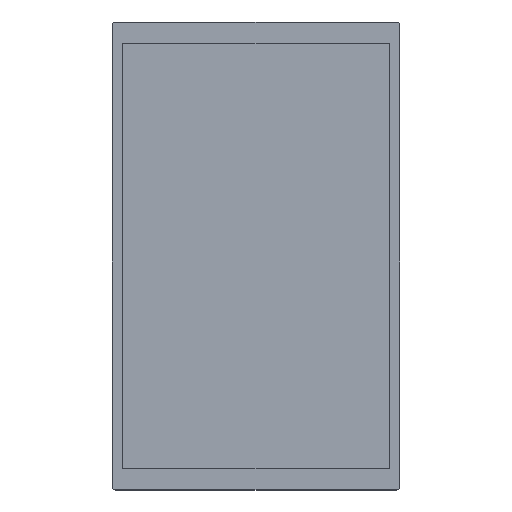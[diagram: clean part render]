
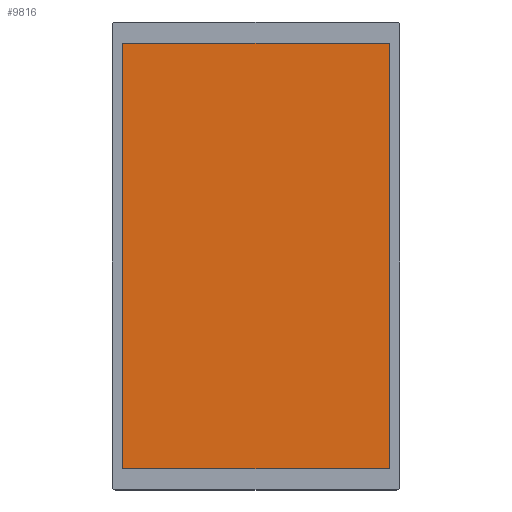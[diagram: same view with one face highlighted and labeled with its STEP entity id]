
A CAD part, top view. The second image highlights one B-rep face of the part: STEP entity #9816.
In plain terms, the highlighted planar face has unit normal (0, 0, 1).
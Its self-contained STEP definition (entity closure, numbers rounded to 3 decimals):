
#8148=DIRECTION('',(1.,0.,0.));
#8149=VECTOR('',#8148,135.96);
#8150=CARTESIAN_POINT('',(-67.98,108.59,4.75));
#8151=LINE('',#8150,#8149);
#8162=DIRECTION('',(0.,-1.,0.));
#8163=VECTOR('',#8162,217.18);
#8164=CARTESIAN_POINT('',(67.98,108.59,4.75));
#8165=LINE('',#8164,#8163);
#8176=DIRECTION('',(-1.,0.,0.));
#8177=VECTOR('',#8176,135.96);
#8178=CARTESIAN_POINT('',(67.98,-108.59,4.75));
#8179=LINE('',#8178,#8177);
#8190=DIRECTION('',(0.,1.,0.));
#8191=VECTOR('',#8190,217.18);
#8192=CARTESIAN_POINT('',(-67.98,-108.59,4.75));
#8193=LINE('',#8192,#8191);
#8393=CARTESIAN_POINT('',(-67.98,108.59,4.75));
#8394=CARTESIAN_POINT('',(67.98,108.59,4.75));
#8395=VERTEX_POINT('',#8393);
#8396=VERTEX_POINT('',#8394);
#8397=CARTESIAN_POINT('',(67.98,-108.59,4.75));
#8398=VERTEX_POINT('',#8397);
#8399=CARTESIAN_POINT('',(-67.98,-108.59,4.75));
#8400=VERTEX_POINT('',#8399);
#9802=CARTESIAN_POINT('',(0.,0.,4.75));
#9803=DIRECTION('',(0.,0.,-1.));
#9804=DIRECTION('',(-1.,0.,0.));
#9805=AXIS2_PLACEMENT_3D('',#9802,#9803,#9804);
#9806=PLANE('',#9805);
#9807=ORIENTED_EDGE('',*,*,#9792,.T.);
#9809=ORIENTED_EDGE('',*,*,#9808,.T.);
#9811=ORIENTED_EDGE('',*,*,#9810,.T.);
#9813=ORIENTED_EDGE('',*,*,#9812,.T.);
#9814=EDGE_LOOP('',(#9807,#9809,#9811,#9813));
#9815=FACE_OUTER_BOUND('',#9814,.F.);
#9816=ADVANCED_FACE('',(#9815),#9806,.F.);
#9792=EDGE_CURVE('',#8395,#8396,#8151,.T.);
#9808=EDGE_CURVE('',#8396,#8398,#8165,.T.);
#9810=EDGE_CURVE('',#8398,#8400,#8179,.T.);
#9812=EDGE_CURVE('',#8400,#8395,#8193,.T.);
